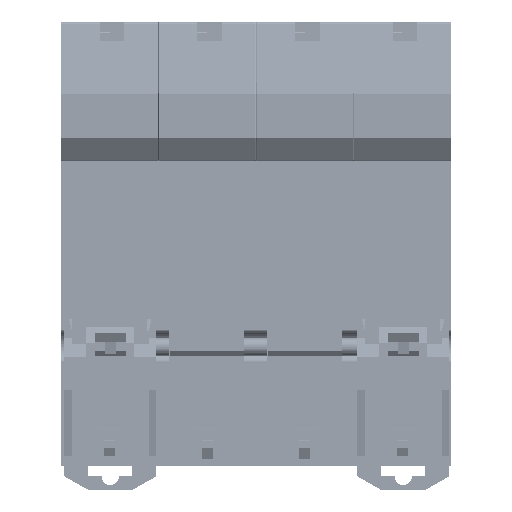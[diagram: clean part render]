
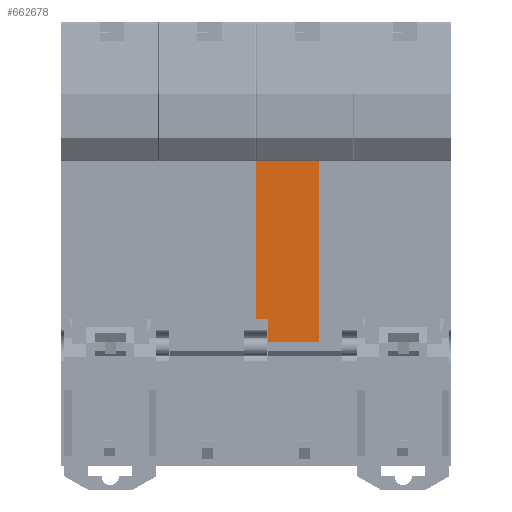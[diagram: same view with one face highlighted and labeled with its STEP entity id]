
A CAD part, left-side view. The second image highlights one B-rep face of the part: STEP entity #662678.
In plain terms, the highlighted planar face has unit normal (-1, 0, 0).
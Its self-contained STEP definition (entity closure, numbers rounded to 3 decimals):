
#11483 = DIRECTION ( 'NONE',  ( 0., -1., 0. ) ) ;
#63191 = LINE ( 'NONE', #600893, #89238 ) ;
#68806 = DIRECTION ( 'NONE',  ( 0., -1., 0. ) ) ;
#76639 = CARTESIAN_POINT ( 'NONE',  ( -2.5, 24.1, 58.1 ) ) ;
#89238 = VECTOR ( 'NONE', #11483, 1000. ) ;
#98506 = ORIENTED_EDGE ( 'NONE', *, *, #211316, .T. ) ;
#98574 = CARTESIAN_POINT ( 'NONE',  ( -2.5, 24.1, 22.6 ) ) ;
#101765 = LINE ( 'NONE', #222467, #808451 ) ;
#107381 = VECTOR ( 'NONE', #265171, 1000. ) ;
#126356 = EDGE_LOOP ( 'NONE', ( #677589, #504353, #363364, #312681, #448150, #98506 ) ) ;
#129070 = VERTEX_POINT ( 'NONE', #669894 ) ;
#130141 = DIRECTION ( 'NONE',  ( 0., 0., -1. ) ) ;
#131399 = CARTESIAN_POINT ( 'NONE',  ( -2.5, 35.6, 58.1 ) ) ;
#184047 = LINE ( 'NONE', #704632, #399556 ) ;
#211316 = EDGE_CURVE ( 'NONE', #129070, #440364, #525701, .T. ) ;
#222467 = CARTESIAN_POINT ( 'NONE',  ( -2.5, 33.45, 58.1 ) ) ;
#225609 = CARTESIAN_POINT ( 'NONE',  ( -2.5, 33.45, 22.6 ) ) ;
#232976 = CARTESIAN_POINT ( 'NONE',  ( -2.5, 35.6, 26.9 ) ) ;
#256206 = DIRECTION ( 'NONE',  ( 0., 0., 1. ) ) ;
#265171 = DIRECTION ( 'NONE',  ( 0., 1., 0. ) ) ;
#279217 = VERTEX_POINT ( 'NONE', #98574 ) ;
#291001 = VERTEX_POINT ( 'NONE', #225609 ) ;
#296947 = EDGE_CURVE ( 'NONE', #291001, #279217, #63191, .T. ) ;
#312608 = VECTOR ( 'NONE', #130141, 1000. ) ;
#312681 = ORIENTED_EDGE ( 'NONE', *, *, #335968, .T. ) ;
#333387 = VECTOR ( 'NONE', #68806, 1000. ) ;
#335968 = EDGE_CURVE ( 'NONE', #279217, #835671, #184047, .T. ) ;
#337518 = AXIS2_PLACEMENT_3D ( 'NONE', #131399, #849613, #256206 ) ;
#363364 = ORIENTED_EDGE ( 'NONE', *, *, #296947, .T. ) ;
#374235 = CARTESIAN_POINT ( 'NONE',  ( -2.5, 33.45, 26.9 ) ) ;
#382126 = EDGE_CURVE ( 'NONE', #440364, #771634, #597992, .T. ) ;
#393635 = FACE_OUTER_BOUND ( 'NONE', #126356, .T. ) ;
#399556 = VECTOR ( 'NONE', #764905, 1000. ) ;
#440364 = VERTEX_POINT ( 'NONE', #232976 ) ;
#448150 = ORIENTED_EDGE ( 'NONE', *, *, #838707, .T. ) ;
#454431 = LINE ( 'NONE', #716874, #107381 ) ;
#456958 = CARTESIAN_POINT ( 'NONE',  ( -2.5, 35.6, 58.1 ) ) ;
#489746 = EDGE_CURVE ( 'NONE', #771634, #291001, #101765, .T. ) ;
#504353 = ORIENTED_EDGE ( 'NONE', *, *, #489746, .T. ) ;
#525701 = LINE ( 'NONE', #456958, #312608 ) ;
#597992 = LINE ( 'NONE', #727057, #333387 ) ;
#600893 = CARTESIAN_POINT ( 'NONE',  ( -2.5, 35.6, 22.6 ) ) ;
#662678 = ADVANCED_FACE ( 'NONE', ( #393635 ), #785209, .F. ) ;
#669894 = CARTESIAN_POINT ( 'NONE',  ( -2.5, 35.6, 58.1 ) ) ;
#677589 = ORIENTED_EDGE ( 'NONE', *, *, #382126, .T. ) ;
#704632 = CARTESIAN_POINT ( 'NONE',  ( -2.5, 24.1, 58.1 ) ) ;
#716874 = CARTESIAN_POINT ( 'NONE',  ( -2.5, 56.7, 58.1 ) ) ;
#727057 = CARTESIAN_POINT ( 'NONE',  ( -2.5, 35.6, 26.9 ) ) ;
#751467 = DIRECTION ( 'NONE',  ( 0., 0., -1. ) ) ;
#764905 = DIRECTION ( 'NONE',  ( 0., 0., 1. ) ) ;
#771634 = VERTEX_POINT ( 'NONE', #374235 ) ;
#785209 = PLANE ( 'NONE',  #337518 ) ;
#808451 = VECTOR ( 'NONE', #751467, 1000. ) ;
#835671 = VERTEX_POINT ( 'NONE', #76639 ) ;
#838707 = EDGE_CURVE ( 'NONE', #835671, #129070, #454431, .T. ) ;
#849613 = DIRECTION ( 'NONE',  ( 1., 0., 0. ) ) ;
